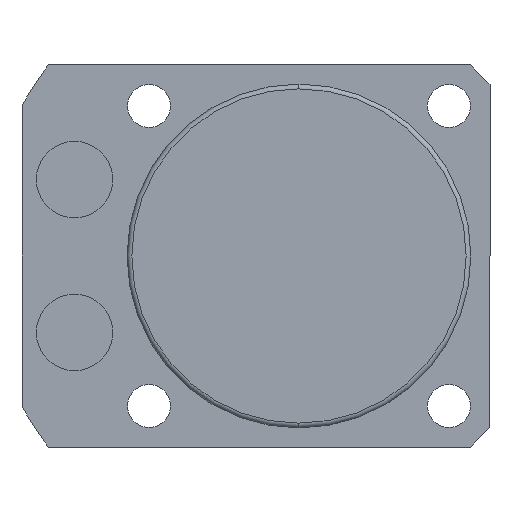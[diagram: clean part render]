
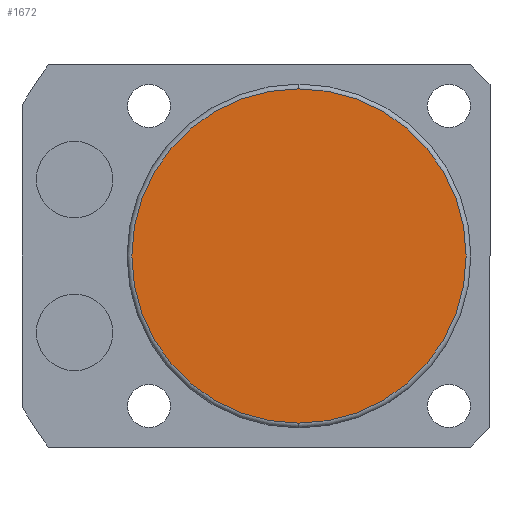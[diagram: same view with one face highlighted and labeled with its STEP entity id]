
A CAD part, front view. The second image highlights one B-rep face of the part: STEP entity #1672.
In plain terms, the highlighted planar face has unit normal (0, -1, 0).
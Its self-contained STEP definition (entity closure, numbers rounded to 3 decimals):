
#14 = ORIENTED_EDGE ( 'NONE', *, *, #1221, .T. ) ;
#97 = AXIS2_PLACEMENT_3D ( 'NONE', #124, #1062, #314 ) ;
#124 = CARTESIAN_POINT ( 'NONE',  ( 0., -130.5, 0. ) ) ;
#272 = AXIS2_PLACEMENT_3D ( 'NONE', #1030, #1809, #336 ) ;
#314 = DIRECTION ( 'NONE',  ( 0., 0., -1. ) ) ;
#336 = DIRECTION ( 'NONE',  ( 0., 0., -1. ) ) ;
#349 = CIRCLE ( 'NONE', #272, 17.5 ) ;
#361 = DIRECTION ( 'NONE',  ( 0., 0., -1. ) ) ;
#394 = CIRCLE ( 'NONE', #1370, 17.5 ) ;
#758 = EDGE_LOOP ( 'NONE', ( #14, #1896 ) ) ;
#878 = PLANE ( 'NONE',  #97 ) ;
#1030 = CARTESIAN_POINT ( 'NONE',  ( 0., -130.5, 0. ) ) ;
#1035 = EDGE_CURVE ( 'NONE', #1582, #1627, #394, .T. ) ;
#1062 = DIRECTION ( 'NONE',  ( 0., -1., 0. ) ) ;
#1221 = EDGE_CURVE ( 'NONE', #1627, #1582, #349, .T. ) ;
#1245 = DIRECTION ( 'NONE',  ( 0., -1., 0. ) ) ;
#1370 = AXIS2_PLACEMENT_3D ( 'NONE', #1801, #1245, #361 ) ;
#1383 = CARTESIAN_POINT ( 'NONE',  ( 0., -130.5, -17.5 ) ) ;
#1582 = VERTEX_POINT ( 'NONE', #1583 ) ;
#1583 = CARTESIAN_POINT ( 'NONE',  ( 0., -130.5, 17.5 ) ) ;
#1627 = VERTEX_POINT ( 'NONE', #1383 ) ;
#1672 = ADVANCED_FACE ( 'NONE', ( #1921 ), #878, .T. ) ;
#1801 = CARTESIAN_POINT ( 'NONE',  ( 0., -130.5, 0. ) ) ;
#1809 = DIRECTION ( 'NONE',  ( 0., -1., 0. ) ) ;
#1896 = ORIENTED_EDGE ( 'NONE', *, *, #1035, .T. ) ;
#1921 = FACE_OUTER_BOUND ( 'NONE', #758, .T. ) ;
